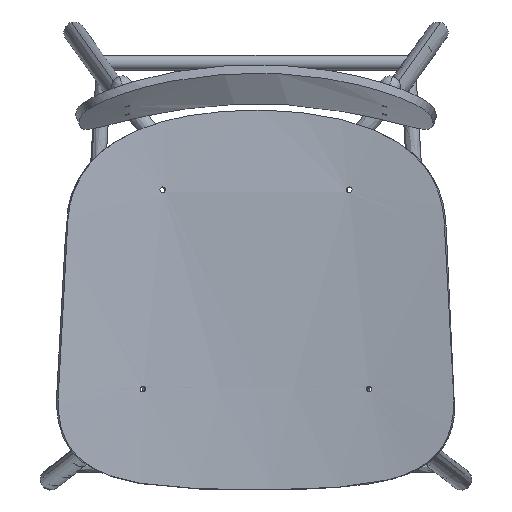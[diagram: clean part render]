
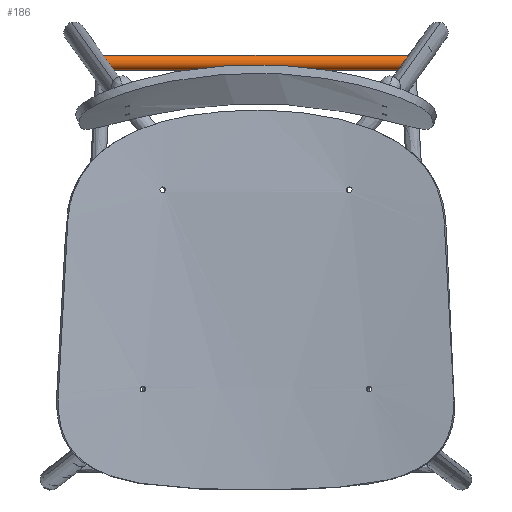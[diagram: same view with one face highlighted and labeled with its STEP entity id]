
A CAD part, top view. The second image highlights one B-rep face of the part: STEP entity #186.
In plain terms, the highlighted free-form (B-spline) face has degree [2, 1] with [5, 2] control points.
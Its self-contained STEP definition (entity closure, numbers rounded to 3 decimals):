
#186=ADVANCED_FACE('',(#287),#1733,.T.);
#287=FACE_OUTER_BOUND('',#412,.T.);
#412=EDGE_LOOP('',(#908,#909,#910,#911));
#908=ORIENTED_EDGE('',*,*,#1189,.T.);
#909=ORIENTED_EDGE('',*,*,#1188,.F.);
#910=ORIENTED_EDGE('',*,*,#1187,.F.);
#911=ORIENTED_EDGE('',*,*,#1186,.T.);
#1186=EDGE_CURVE('',#1642,#1644,#1334,.T.);
#1187=EDGE_CURVE('',#1642,#1643,#1335,.T.);
#1188=EDGE_CURVE('',#1643,#1645,#1336,.T.);
#1189=EDGE_CURVE('',#1644,#1645,#1337,.T.);
#1334=(
BOUNDED_CURVE()
B_SPLINE_CURVE(2,(#8750,#8751,#8752,#8753,#8754),.UNSPECIFIED.,.F.,.F.)
B_SPLINE_CURVE_WITH_KNOTS((3,2,3),(0.,12.488,24.976),
 .UNSPECIFIED.)
CURVE()
GEOMETRIC_REPRESENTATION_ITEM()
RATIONAL_B_SPLINE_CURVE((1.,0.707,1.,0.707,1.))
REPRESENTATION_ITEM('')
);
#1335=(
BOUNDED_CURVE()
B_SPLINE_CURVE(1,(#8755,#8756),.UNSPECIFIED.,.F.,.F.)
B_SPLINE_CURVE_WITH_KNOTS((2,2),(0.,337.374),.UNSPECIFIED.)
CURVE()
GEOMETRIC_REPRESENTATION_ITEM()
RATIONAL_B_SPLINE_CURVE((1.,1.))
REPRESENTATION_ITEM('')
);
#1336=(
BOUNDED_CURVE()
B_SPLINE_CURVE(2,(#8757,#8758,#8759,#8760,#8761),.UNSPECIFIED.,.F.,.F.)
B_SPLINE_CURVE_WITH_KNOTS((3,2,3),(0.,12.488,24.976),
 .UNSPECIFIED.)
CURVE()
GEOMETRIC_REPRESENTATION_ITEM()
RATIONAL_B_SPLINE_CURVE((1.,0.707,1.,0.707,1.))
REPRESENTATION_ITEM('')
);
#1337=(
BOUNDED_CURVE()
B_SPLINE_CURVE(1,(#8762,#8763),.UNSPECIFIED.,.F.,.F.)
B_SPLINE_CURVE_WITH_KNOTS((2,2),(0.,337.374),.UNSPECIFIED.)
CURVE()
GEOMETRIC_REPRESENTATION_ITEM()
RATIONAL_B_SPLINE_CURVE((1.,1.))
REPRESENTATION_ITEM('')
);
#1642=VERTEX_POINT('',#8746);
#1643=VERTEX_POINT('',#8747);
#1644=VERTEX_POINT('',#8748);
#1645=VERTEX_POINT('',#8749);
#1733=(
BOUNDED_SURFACE()
B_SPLINE_SURFACE(2,1,((#8724,#8725),(#8726,#8727),(#8728,#8729),(#8730,
#8731),(#8732,#8733)),.UNSPECIFIED.,.F.,.F.,.F.)
B_SPLINE_SURFACE_WITH_KNOTS((3,2,3),(2,2),(0.,12.488,24.976),
(0.,337.374),.UNSPECIFIED.)
GEOMETRIC_REPRESENTATION_ITEM()
RATIONAL_B_SPLINE_SURFACE(((1.,1.),(0.707,0.707),
(1.,1.),(0.707,0.707),(1.,1.)))
REPRESENTATION_ITEM('')
SURFACE()
);
#8724=CARTESIAN_POINT('',(-168.687,258.366,347.5));
#8725=CARTESIAN_POINT('',(168.687,258.366,347.5));
#8726=CARTESIAN_POINT('',(-168.687,258.366,355.45));
#8727=CARTESIAN_POINT('',(168.687,258.366,355.45));
#8728=CARTESIAN_POINT('',(-168.687,250.416,355.45));
#8729=CARTESIAN_POINT('',(168.687,250.416,355.45));
#8730=CARTESIAN_POINT('',(-168.687,242.466,355.45));
#8731=CARTESIAN_POINT('',(168.687,242.466,355.45));
#8732=CARTESIAN_POINT('',(-168.687,242.466,347.5));
#8733=CARTESIAN_POINT('',(168.687,242.466,347.5));
#8746=CARTESIAN_POINT('',(-168.687,258.366,347.5));
#8747=CARTESIAN_POINT('',(168.687,258.366,347.5));
#8748=CARTESIAN_POINT('',(-168.687,242.466,347.5));
#8749=CARTESIAN_POINT('',(168.687,242.466,347.5));
#8750=CARTESIAN_POINT('',(-168.687,258.366,347.5));
#8751=CARTESIAN_POINT('',(-168.687,258.366,355.45));
#8752=CARTESIAN_POINT('',(-168.687,250.416,355.45));
#8753=CARTESIAN_POINT('',(-168.687,242.466,355.45));
#8754=CARTESIAN_POINT('',(-168.687,242.466,347.5));
#8755=CARTESIAN_POINT('',(-168.687,258.366,347.5));
#8756=CARTESIAN_POINT('',(168.687,258.366,347.5));
#8757=CARTESIAN_POINT('',(168.687,258.366,347.5));
#8758=CARTESIAN_POINT('',(168.687,258.366,355.45));
#8759=CARTESIAN_POINT('',(168.687,250.416,355.45));
#8760=CARTESIAN_POINT('',(168.687,242.466,355.45));
#8761=CARTESIAN_POINT('',(168.687,242.466,347.5));
#8762=CARTESIAN_POINT('',(-168.687,242.466,347.5));
#8763=CARTESIAN_POINT('',(168.687,242.466,347.5));
